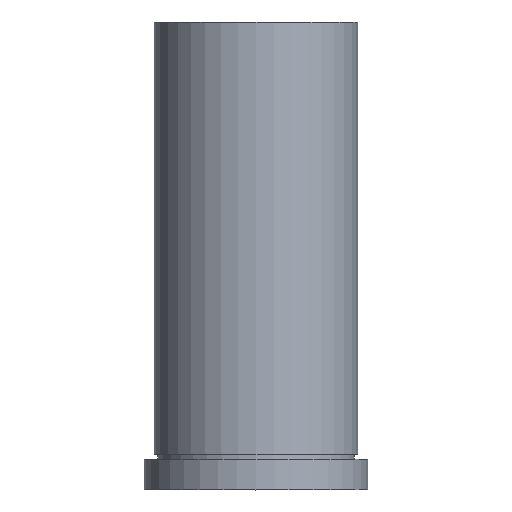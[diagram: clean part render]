
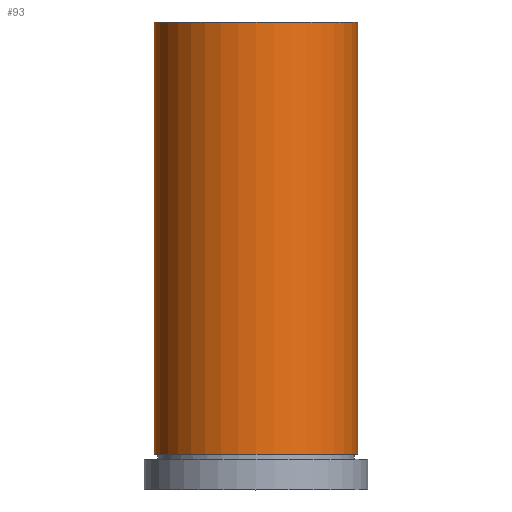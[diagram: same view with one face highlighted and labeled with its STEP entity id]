
A CAD part, top view. The second image highlights one B-rep face of the part: STEP entity #93.
In plain terms, the highlighted cylindrical face has radius 15.881 mm (diameter 31.763 mm), a partial arc.
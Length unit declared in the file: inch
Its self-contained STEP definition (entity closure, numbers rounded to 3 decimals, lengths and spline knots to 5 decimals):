
#93 = ADVANCED_FACE ( 'NONE', ( #583 ), #580, .T. ) ;
#94 = VERTEX_POINT ( 'NONE', #595 ) ;
#103 = ORIENTED_EDGE ( 'NONE', *, *, #104, .T. ) ;
#104 = EDGE_CURVE ( 'NONE', #148, #156, #397, .T. ) ;
#137 = EDGE_LOOP ( 'NONE', ( #146, #103, #138, #139 ) ) ;
#138 = ORIENTED_EDGE ( 'NONE', *, *, #149, .F. ) ;
#139 = ORIENTED_EDGE ( 'NONE', *, *, #140, .F. ) ;
#140 = EDGE_CURVE ( 'NONE', #94, #150, #435, .T. ) ;
#146 = ORIENTED_EDGE ( 'NONE', *, *, #147, .T. ) ;
#147 = EDGE_CURVE ( 'NONE', #94, #148, #440, .T. ) ;
#148 = VERTEX_POINT ( 'NONE', #474 ) ;
#149 = EDGE_CURVE ( 'NONE', #150, #156, #472, .T. ) ;
#150 = VERTEX_POINT ( 'NONE', #502 ) ;
#156 = VERTEX_POINT ( 'NONE', #466 ) ;
#394 = DIRECTION ( 'NONE',  ( 0., -1., 0. ) ) ;
#395 = VECTOR ( 'NONE', #394, 39.37008 ) ;
#396 = CARTESIAN_POINT ( 'NONE',  ( -0.62525, -39.37008, 0. ) ) ;
#397 = LINE ( 'NONE', #396, #395 ) ;
#435 = LINE ( 'NONE', #473, #494 ) ;
#436 = DIRECTION ( 'NONE',  ( 0., -1., 0. ) ) ;
#437 = DIRECTION ( 'NONE',  ( 0., -1., 0. ) ) ;
#438 = CARTESIAN_POINT ( 'NONE',  ( 0., 2.875, 0. ) ) ;
#439 = AXIS2_PLACEMENT_3D ( 'NONE', #438, #437, #475 ) ;
#440 = CIRCLE ( 'NONE', #439, 0.62525 ) ;
#466 = CARTESIAN_POINT ( 'NONE',  ( -0.62525, 0.2175, 0. ) ) ;
#468 = DIRECTION ( 'NONE',  ( 1., 0., 0. ) ) ;
#469 = DIRECTION ( 'NONE',  ( 0., -1., 0. ) ) ;
#470 = CARTESIAN_POINT ( 'NONE',  ( 0., 0.2175, 0. ) ) ;
#471 = AXIS2_PLACEMENT_3D ( 'NONE', #470, #469, #468 ) ;
#472 = CIRCLE ( 'NONE', #471, 0.62525 ) ;
#473 = CARTESIAN_POINT ( 'NONE',  ( 0.62525, -39.37008, 0. ) ) ;
#474 = CARTESIAN_POINT ( 'NONE',  ( -0.62525, 2.875, 0. ) ) ;
#475 = DIRECTION ( 'NONE',  ( 1., 0., 0. ) ) ;
#494 = VECTOR ( 'NONE', #436, 39.37008 ) ;
#502 = CARTESIAN_POINT ( 'NONE',  ( 0.62525, 0.2175, 0. ) ) ;
#580 = CYLINDRICAL_SURFACE ( 'NONE', #594, 0.62525 ) ;
#583 = FACE_OUTER_BOUND ( 'NONE', #137, .T. ) ;
#591 = DIRECTION ( 'NONE',  ( 1., 0., 0. ) ) ;
#592 = DIRECTION ( 'NONE',  ( 0., -1., 0. ) ) ;
#593 = CARTESIAN_POINT ( 'NONE',  ( 0., -39.37008, 0. ) ) ;
#594 = AXIS2_PLACEMENT_3D ( 'NONE', #593, #592, #591 ) ;
#595 = CARTESIAN_POINT ( 'NONE',  ( 0.62525, 2.875, 0. ) ) ;
